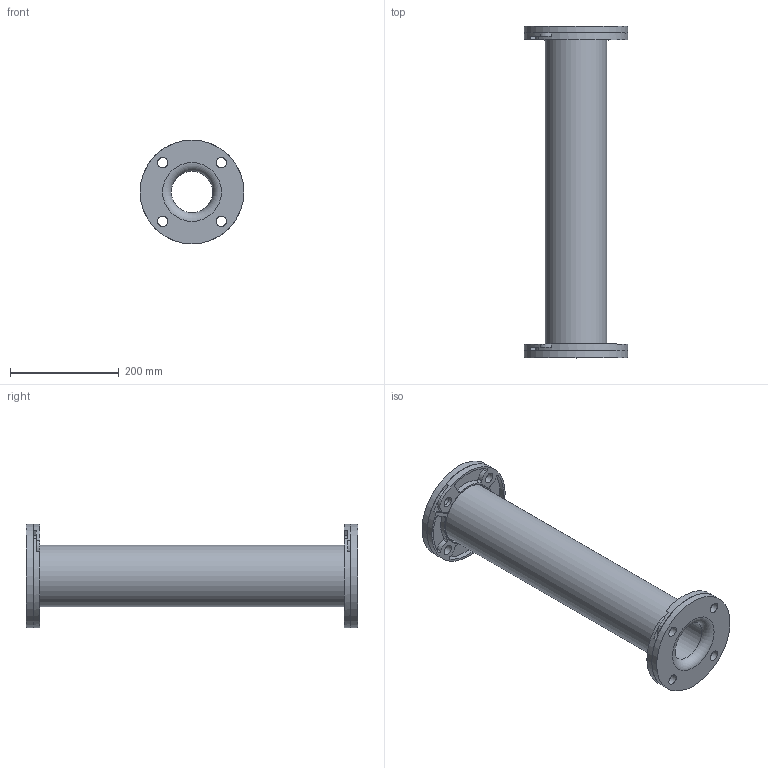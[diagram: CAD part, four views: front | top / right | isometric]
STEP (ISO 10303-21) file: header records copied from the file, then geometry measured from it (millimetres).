
FILE_DESCRIPTION(/* description */ (''),/* implementation_level */ '2;1');
FILE_NAME(/* name */ 'C:\001_Work\Designs\Mercer2014\MQInventor2014\RajR\150 Style\STP\STYLE 150 ASA150LB\150-3IDx24FF ASA150LB.stp',/* time_stamp */ '2016-05-20T18:42:50-04:00',/* author */ ('rramoutar'),/* organization */ ('Mason Industries Inc.'),/* preprocessor_version */ 'ST-DEVELOPER v15.6',/* originating_system */ 'Autodesk Inventor 2015',/* authorisation */ '');
FILE_SCHEMA (('CONFIG_CONTROL_DESIGN'));
Length unit declared in the file: inch
Products named in the file (1): 150-3IDx24FF
Bounding box: 190.5 x 609.6 x 190.5 mm (x, y, z)
Volume: 3929706 mm3; surface area: 568702.4 mm2
Topology: 3 solids, 3 shells, 162 faces, 438 edges, 292 vertices
Faces by surface type: cylinder 98, plane 52, torus 12
Full cylindrical faces by diameter (mm): 19.05 x18, 76.2 x1, 112.37 x1, 190.5 x2
Entity records: 5508 total; most frequent: CARTESIAN_POINT 1075, DIRECTION 950, ORIENTED_EDGE 816, EDGE_CURVE 408, AXIS2_PLACEMENT_3D 395, VERTEX_POINT 288, EDGE_LOOP 236, CIRCLE 232
